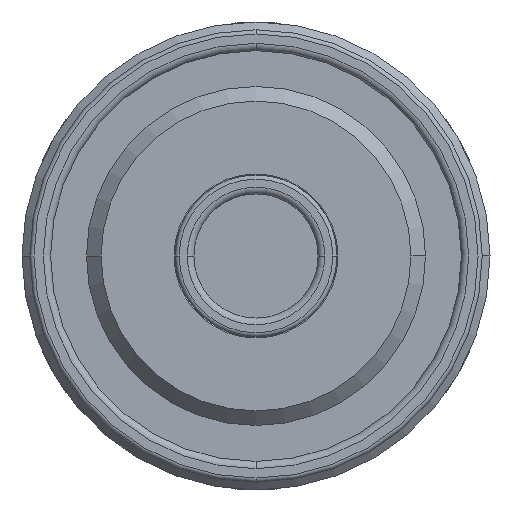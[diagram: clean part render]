
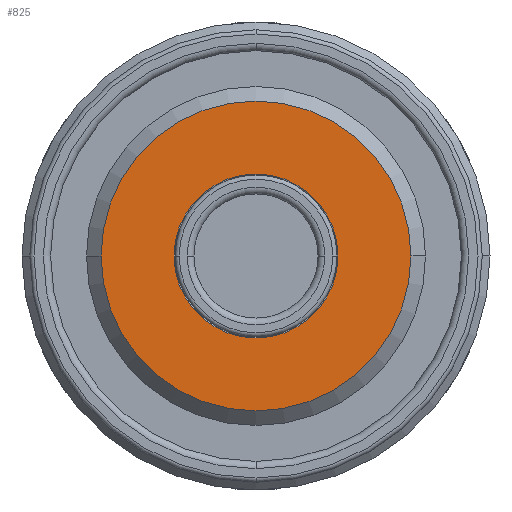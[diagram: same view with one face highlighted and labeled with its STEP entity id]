
A CAD part, front view. The second image highlights one B-rep face of the part: STEP entity #825.
In plain terms, the highlighted planar face has unit normal (0, -1, 0).
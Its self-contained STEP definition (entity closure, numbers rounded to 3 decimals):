
#365=PLANE('',#3424);
#414=FACE_BOUND('',#1253,.T.);
#415=FACE_BOUND('',#1254,.T.);
#825=ADVANCED_FACE('',(#414,#415),#365,.F.);
#1253=EDGE_LOOP('',(#1714,#1715));
#1254=EDGE_LOOP('',(#1716,#1717));
#1714=ORIENTED_EDGE('',*,*,#2691,.T.);
#1715=ORIENTED_EDGE('',*,*,#2712,.T.);
#1716=ORIENTED_EDGE('',*,*,#2695,.F.);
#1717=ORIENTED_EDGE('',*,*,#2713,.F.);
#2374=VERTEX_POINT('',#5157);
#2375=VERTEX_POINT('',#5159);
#2376=VERTEX_POINT('',#5166);
#2377=VERTEX_POINT('',#5167);
#2691=EDGE_CURVE('',#2375,#2374,#3070,.T.);
#2695=EDGE_CURVE('',#2376,#2377,#3072,.T.);
#2712=EDGE_CURVE('',#2374,#2375,#3085,.T.);
#2713=EDGE_CURVE('',#2377,#2376,#3086,.T.);
#3070=CIRCLE('',#3396,7.88);
#3072=CIRCLE('',#3400,14.9);
#3085=CIRCLE('',#3422,7.88);
#3086=CIRCLE('',#3423,14.9);
#3396=AXIS2_PLACEMENT_3D('',#5158,#4085,#4086);
#3400=AXIS2_PLACEMENT_3D('',#5165,#4095,#4096);
#3422=AXIS2_PLACEMENT_3D('',#5201,#4143,#4144);
#3423=AXIS2_PLACEMENT_3D('',#5202,#4145,#4146);
#3424=AXIS2_PLACEMENT_3D('',#5203,#4147,#4148);
#4085=DIRECTION('',(0.,1.,0.));
#4086=DIRECTION('',(-1.,0.,0.));
#4095=DIRECTION('',(0.,1.,0.));
#4096=DIRECTION('',(-1.,0.,0.));
#4143=DIRECTION('',(0.,1.,0.));
#4144=DIRECTION('',(-1.,0.,0.));
#4145=DIRECTION('',(0.,1.,0.));
#4146=DIRECTION('',(-1.,0.,0.));
#4147=DIRECTION('',(0.,1.,0.));
#4148=DIRECTION('',(1.,0.,0.));
#5157=CARTESIAN_POINT('',(7.88,-1.3,0.));
#5158=CARTESIAN_POINT('',(0.,-1.3,0.));
#5159=CARTESIAN_POINT('',(-7.88,-1.3,0.));
#5165=CARTESIAN_POINT('',(0.,-1.3,0.));
#5166=CARTESIAN_POINT('',(-14.9,-1.3,0.));
#5167=CARTESIAN_POINT('',(14.9,-1.3,0.));
#5201=CARTESIAN_POINT('',(0.,-1.3,0.));
#5202=CARTESIAN_POINT('',(0.,-1.3,0.));
#5203=CARTESIAN_POINT('',(14.9,-1.3,0.));
